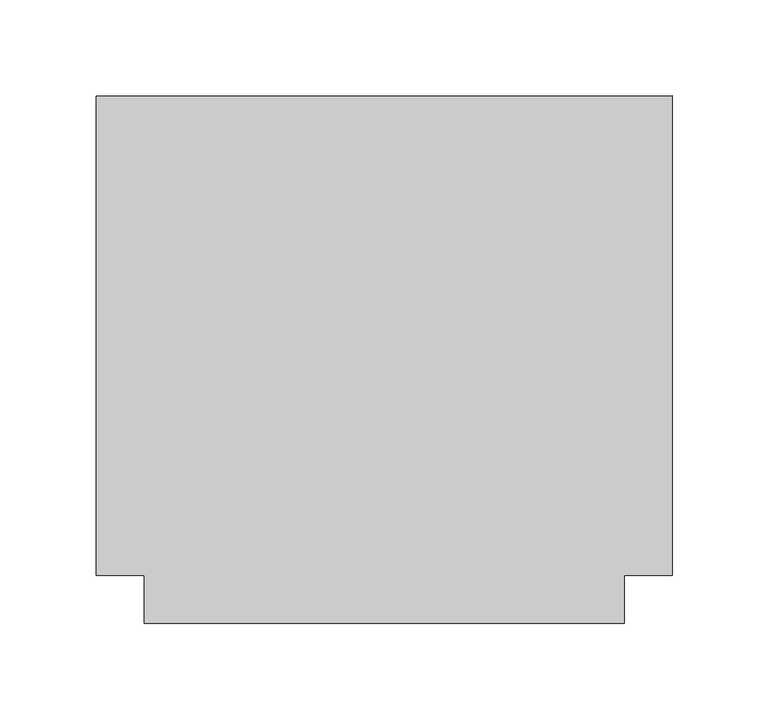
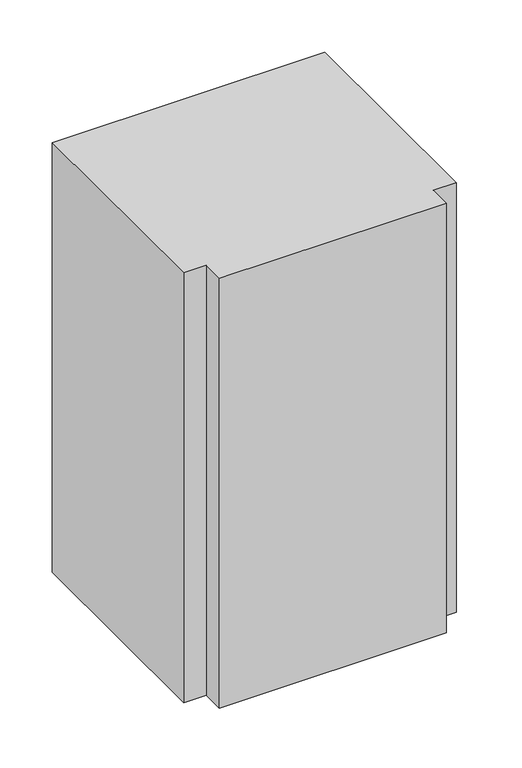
"""IFC4 building model written with IfcOpenShell, lengths in millimetres: duct fitting geometry, ADSK_ТройникВоздуховодов_Прямоугольный1 : Стандарт 2."""

import ifcopenshell
import ifcopenshell.guid

model = None  # the IFC model being written
_history = None  # IfcOwnerHistory: only IFC2X3 demands one
_inside = {}  # id of a spatial element -> (the spatial element, [elements in it])
_under = {}  # id of a project, library or spatial element -> (it, [spatial elements below it])
_declared = {}  # id of a project -> (the project, [libraries it declares])
_typed = {}  # id of a type object -> (the type object, [elements of that type])
_made_of = {}  # id of a material, layer set ... -> (it, [elements and type objects made of it])


def new_model(schema):
    """Start an empty IFC model of exactly this schema.

    Asked for "IFC4X3", IfcOpenShell would pick the latest addendum, in which some entities
    have other attributes; the version numbers below select the first issue.
    IFC2X3 requires an IfcOwnerHistory on every rooted entity: one is made here for all.
    """
    global model, _history
    if schema == "IFC4X3":
        model = ifcopenshell.file(schema_version=(4, 3, 0, 0))
    else:
        model = ifcopenshell.file(schema=schema)
    _inside.clear()
    _under.clear()
    _declared.clear()
    _typed.clear()
    _made_of.clear()
    _history = None
    if model.schema == "IFC2X3":
        org = make("IfcOrganization", Name="unknown")
        user = make(
            "IfcPersonAndOrganization",
            ThePerson=make("IfcPerson", FamilyName="unknown"),
            TheOrganization=org,
        )
        app = make(
            "IfcApplication",
            ApplicationDeveloper=org,
            Version="unknown",
            ApplicationFullName="unknown",
            ApplicationIdentifier="unknown",
        )
        _history = make(
            "IfcOwnerHistory",
            OwningUser=user,
            OwningApplication=app,
            ChangeAction="ADDED",
            CreationDate=0,
        )
    return model


def make(cls, **values):
    """One entity of the class cls with the attributes given. An attribute that is None is left unset."""
    return model.create_entity(
        cls, **{name: value for name, value in values.items() if value is not None}
    )


def rooted(cls, **values):
    """An entity with a GlobalId (a new one), such as an element, a storey or a relation."""
    return make(cls, GlobalId=ifcopenshell.guid.new(), OwnerHistory=_history, **values)


def si_unit(unit_type, name, prefix=None):
    """IfcSIUnit, for example si_unit("LENGTHUNIT", "METRE", prefix="MILLI")."""
    return make("IfcSIUnit", UnitType=unit_type, Prefix=prefix, Name=name)


def assignment(units):
    """IfcUnitAssignment: the units of a project."""
    return None if units is None else make("IfcUnitAssignment", Units=units)


def point(xyz):
    """IfcCartesianPoint."""
    return None if xyz is None else make("IfcCartesianPoint", Coordinates=xyz)


def direction(xyz):
    """IfcDirection."""
    return None if xyz is None else make("IfcDirection", DirectionRatios=xyz)


def frame(location, z_axis=None, x_axis=None):
    """IfcAxis2Placement3D, a coordinate frame: its origin and axes. An axis left out is left unset."""
    return make(
        "IfcAxis2Placement3D",
        Location=point(location),
        Axis=direction(z_axis),
        RefDirection=direction(x_axis),
    )


def origin():
    """The frame at (0, 0, 0) with its axes left unset."""
    return frame((0.0, 0.0, 0.0))


def place(relative_to, where):
    """IfcLocalPlacement: puts the frame where relative to a parent placement (None: the world)."""
    return make(
        "IfcLocalPlacement", PlacementRelTo=relative_to, RelativePlacement=where
    )


def context(
    kind, dimensions, precision=None, world=None, true_north=None, identifier=None
):
    """IfcGeometricRepresentationContext, for example the 3D "Model" context."""
    return make(
        "IfcGeometricRepresentationContext",
        ContextIdentifier=identifier,
        ContextType=kind,
        CoordinateSpaceDimension=dimensions,
        Precision=precision,
        WorldCoordinateSystem=world,
        TrueNorth=true_north,
    )


def project(units=None, contexts=None):
    """IfcProject with its units and contexts."""
    return rooted(
        "IfcProject",
        Name="project",
        RepresentationContexts=contexts,
        UnitsInContext=assignment(units),
    )


def spatial(cls, under=None, at=None, **own):
    """A site, building, storey or space (cls), placed at a placement, below another one or the project."""
    s = rooted(cls, ObjectPlacement=at, **own)
    if under is not None:
        _under.setdefault(under.id(), (under, []))[1].append(s)
    return s


def polyline(points):
    """IfcPolyline through the points."""
    return make("IfcPolyline", Points=[point(p) for p in points])


def outline(outer, holes=None, kind="AREA"):
    """IfcArbitraryClosedProfileDef: a profile drawn as a closed curve; with holes, ...WithVoids."""
    if holes is None:
        return make("IfcArbitraryClosedProfileDef", ProfileType=kind, OuterCurve=outer)
    return make(
        "IfcArbitraryProfileDefWithVoids",
        ProfileType=kind,
        OuterCurve=outer,
        InnerCurves=holes,
    )


def extrude(swept, where, along, depth):
    """IfcExtrudedAreaSolid: the profile swept, set in the frame where, extruded along a direction by depth."""
    return make(
        "IfcExtrudedAreaSolid",
        SweptArea=swept,
        Position=where,
        ExtrudedDirection=direction(along),
        Depth=depth,
    )


def shape(context_of_items, identifier, shape_type, items):
    """IfcShapeRepresentation: the items that make up one representation, for example the "Body"."""
    return make(
        "IfcShapeRepresentation",
        ContextOfItems=context_of_items,
        RepresentationIdentifier=identifier,
        RepresentationType=shape_type,
        Items=items,
    )


def source(mapping_origin, context_of_items, identifier, shape_type, items):
    """IfcRepresentationMap: a shape defined once, which mapped items show again and again."""
    return make(
        "IfcRepresentationMap",
        MappingOrigin=mapping_origin,
        MappedRepresentation=shape(context_of_items, identifier, shape_type, items),
    )


def transform(
    local_origin,
    x_axis=None,
    y_axis=None,
    z_axis=None,
    scale=None,
    scale2=None,
    scale3=None,
    uniform=True,
):
    """IfcCartesianTransformationOperator3D, or its non-uniform kind. x_axis, y_axis, z_axis: its Axis1, 2, 3."""
    if uniform:
        return make(
            "IfcCartesianTransformationOperator3D",
            Axis1=direction(x_axis),
            Axis2=direction(y_axis),
            LocalOrigin=point(local_origin),
            Scale=scale,
            Axis3=direction(z_axis),
        )
    return make(
        "IfcCartesianTransformationOperator3DnonUniform",
        Axis1=direction(x_axis),
        Axis2=direction(y_axis),
        LocalOrigin=point(local_origin),
        Scale=scale,
        Axis3=direction(z_axis),
        Scale2=scale2,
        Scale3=scale3,
    )


def mapped(mapping_source, mapping_target):
    """IfcMappedItem: shows the shape of a source again, moved by a transform."""
    return make(
        "IfcMappedItem", MappingSource=mapping_source, MappingTarget=mapping_target
    )


def made_of(thing, what):
    """Note that an element or type object is made of a material, layer set ...; save() writes the relation."""
    if what is not None:
        _made_of.setdefault(what.id(), (what, []))[1].append(thing)
    return thing


def element(
    cls,
    number,
    at=None,
    inside=None,
    cuts=None,
    type_object=None,
    material=None,
    context=None,
    identifier="Body",
    shape_type=None,
    held_by="IfcProductDefinitionShape",
    body=None,
    shapes=None,
    **own,
):
    """One element of the class cls, such as IfcWall. Its Tag is "e" and its number.

    at: its placement. inside: the storey or other place that contains it. cuts: it is an
    opening in that element (IfcRelVoidsElement). A single representation is given by context,
    identifier, shape_type and body (its items); several are given by shapes. held_by: the class
    of the entity that holds the representations. save() writes the other relations.
    """
    e = rooted(cls, Tag="e%d" % number, ObjectPlacement=at, **own)
    if body is not None:
        shapes = [shape(context, identifier, shape_type, body)]
    if shapes is not None:
        e.Representation = make(held_by, Representations=shapes)
    if inside is not None:
        _inside.setdefault(inside.id(), (inside, []))[1].append(e)
    if cuts is not None:
        rooted(
            "IfcRelVoidsElement", RelatingBuildingElement=cuts, RelatedOpeningElement=e
        )
    if type_object is not None:
        _typed.setdefault(type_object.id(), (type_object, []))[1].append(e)
    return made_of(e, material)


def aggregate(whole, parts):
    """IfcRelAggregates: a whole, such as a stair, and the parts it consists of."""
    return rooted("IfcRelAggregates", RelatingObject=whole, RelatedObjects=parts)


def save(model, path):
    """Write the relations noted so far, then the file.

    IfcRelAggregates (storeys below a building ...), IfcRelContainedInSpatialStructure (elements
    in a storey), IfcRelDefinesByType, IfcRelAssociatesMaterial and IfcRelDeclares: one each for
    every whole, place, type object, material and project.
    """
    for whole, parts in _under.values():
        aggregate(whole, parts)
    for where, things in _inside.values():
        rooted(
            "IfcRelContainedInSpatialStructure",
            RelatedElements=things,
            RelatingStructure=where,
        )
    for kind, things in _typed.values():
        rooted("IfcRelDefinesByType", RelatedObjects=things, RelatingType=kind)
    for what, things in _made_of.values():
        rooted("IfcRelAssociatesMaterial", RelatedObjects=things, RelatingMaterial=what)
    for by, libraries in _declared.values():
        rooted("IfcRelDeclares", RelatingContext=by, RelatedDefinitions=libraries)
    model.write(path)


def duct_fitting_c4820838(model_context):
    return source(origin(), model_context, "Body", "SweptSolid", [
        extrude(outline(polyline([(-150.0, -125.0), (-150.0, 125.0), (150.0, 125.0), (150.0, -125.0), (125.0, -125.0), (125.0, -150.0), (-125.0, -150.0), (-125.0, -125.0), (-150.0, -125.0)])), frame((0.0, 0.0, -250.0), z_axis=(0.0, 0.0, 1.0), x_axis=(1.0, 0.0, 0.0)), (0.0, 0.0, 1.0), 500.0),
    ])


if __name__ == "__main__":
    model = new_model("IFC4")
    model_context = context("Model", 3, world=origin())
    ifc_project = project(units=[si_unit("LENGTHUNIT", "METRE", prefix="MILLI")], contexts=[model_context])
    site = spatial("IfcSite", under=ifc_project)
    building = spatial("IfcBuilding", under=site)
    placement = place(None, origin())
    duct_fitting_shape = duct_fitting_c4820838(model_context)
    element("IfcDuctFitting", 1, ObjectType="ADSK_ТройникВоздуховодов_Прямоугольный1 : Стандарт 2", at=placement, inside=building, context=model_context, shape_type="MappedRepresentation", body=[
        mapped(duct_fitting_shape, transform((0.0, 0.0, 0.0), x_axis=(1.0, 0.0, 0.0), y_axis=(0.0, 1.0, 0.0), z_axis=(0.0, 0.0, 1.0))),
    ])
    save(model, "model.ifc")
